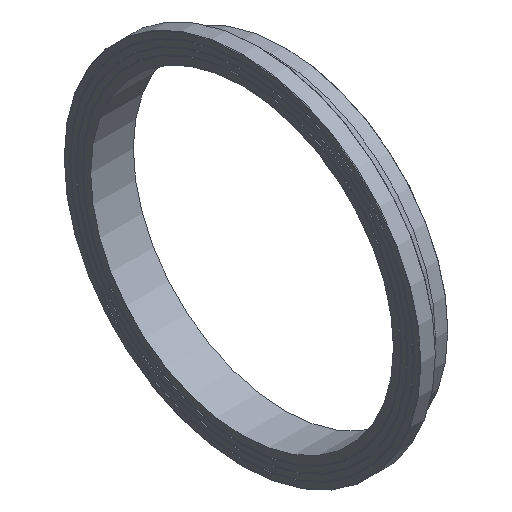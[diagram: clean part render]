
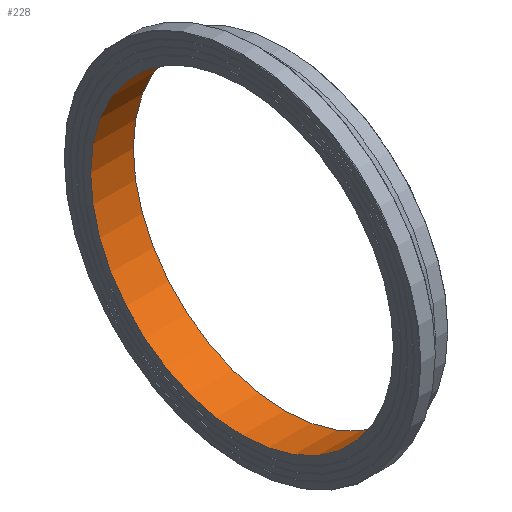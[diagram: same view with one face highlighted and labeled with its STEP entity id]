
A CAD part, isometric view. The second image highlights one B-rep face of the part: STEP entity #228.
In plain terms, the highlighted cylindrical face has radius 461.8 mm (diameter 923.6 mm), a full revolution.
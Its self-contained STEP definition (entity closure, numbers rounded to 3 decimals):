
#33=CYLINDRICAL_SURFACE('',#274,461.8);
#50=ORIENTED_EDGE('',*,*,#79,.F.);
#51=ORIENTED_EDGE('',*,*,#76,.T.);
#76=EDGE_CURVE('',#96,#96,#116,.T.);
#79=EDGE_CURVE('',#99,#99,#119,.T.);
#96=VERTEX_POINT('',#383);
#99=VERTEX_POINT('',#390);
#116=CIRCLE('',#257,461.8);
#119=CIRCLE('',#261,461.8);
#150=EDGE_LOOP('',(#50));
#151=EDGE_LOOP('',(#51));
#190=FACE_BOUND('',#150,.T.);
#191=FACE_BOUND('',#151,.T.);
#228=ADVANCED_FACE('',(#190,#191),#33,.F.);
#257=AXIS2_PLACEMENT_3D('',#382,#303,#304);
#261=AXIS2_PLACEMENT_3D('',#389,#311,#312);
#274=AXIS2_PLACEMENT_3D('',#410,#337,#338);
#303=DIRECTION('',(-1.,0.,0.));
#304=DIRECTION('',(0.,0.,1.));
#311=DIRECTION('',(-1.,0.,0.));
#312=DIRECTION('',(0.,0.,1.));
#337=DIRECTION('',(-1.,0.,0.));
#338=DIRECTION('',(0.,0.,1.));
#382=CARTESIAN_POINT('',(0.,0.,0.));
#383=CARTESIAN_POINT('',(0.,0.,461.8));
#389=CARTESIAN_POINT('',(130.,0.,0.));
#390=CARTESIAN_POINT('',(130.,0.,461.8));
#410=CARTESIAN_POINT('',(60.,0.,0.));
